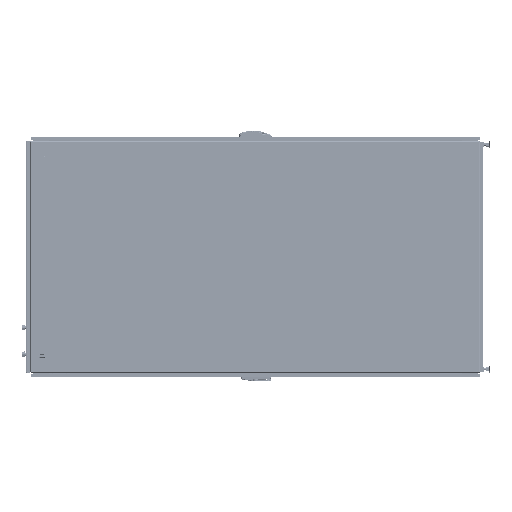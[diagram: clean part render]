
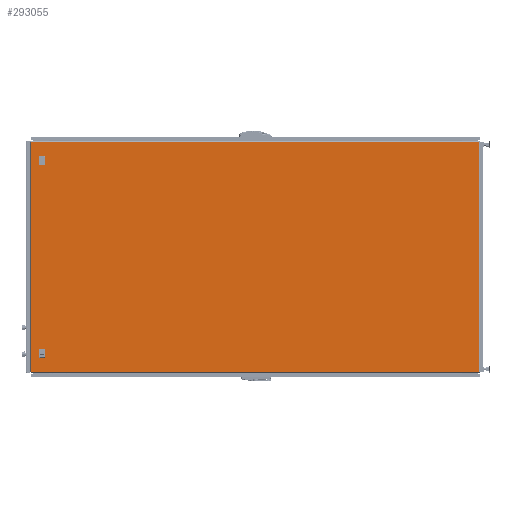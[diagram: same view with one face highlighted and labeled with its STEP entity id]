
A CAD part, left-side view. The second image highlights one B-rep face of the part: STEP entity #293055.
In plain terms, the highlighted planar face has unit normal (-1, 0, 0) as drawn and (0, 0, 1) by its records, which use the part's own axes.
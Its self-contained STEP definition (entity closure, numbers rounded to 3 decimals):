
#1648 = VERTEX_POINT ( 'NONE', #334714 ) ;
#3480 = AXIS2_PLACEMENT_3D ( 'NONE', #177337, #261233, #341466 ) ;
#11365 = EDGE_CURVE ( 'NONE', #47377, #502252, #484099, .T. ) ;
#18379 = LINE ( 'NONE', #193290, #331062 ) ;
#21277 = ORIENTED_EDGE ( 'NONE', *, *, #361729, .F. ) ;
#25738 = VERTEX_POINT ( 'NONE', #327132 ) ;
#31982 = CARTESIAN_POINT ( 'NONE',  ( -573.779, 1.524, 0. ) ) ;
#35025 = ORIENTED_EDGE ( 'NONE', *, *, #151878, .F. ) ;
#47377 = VERTEX_POINT ( 'NONE', #301058 ) ;
#67535 = CARTESIAN_POINT ( 'NONE',  ( 460.5, 2193.003, 0. ) ) ;
#72710 = DIRECTION ( 'NONE',  ( 0., 1., 0. ) ) ;
#91790 = DIRECTION ( 'NONE',  ( 1., 0., 0. ) ) ;
#96081 = ORIENTED_EDGE ( 'NONE', *, *, #11365, .T. ) ;
#98924 = VECTOR ( 'NONE', #282753, 1000. ) ;
#104261 = DIRECTION ( 'NONE',  ( -1., 0., 0. ) ) ;
#113741 = CARTESIAN_POINT ( 'NONE',  ( -498.6, 2193.003, 0. ) ) ;
#124454 = CARTESIAN_POINT ( 'NONE',  ( -498.6, 2167.603, 0. ) ) ;
#129493 = EDGE_CURVE ( 'NONE', #314460, #506966, #357838, .T. ) ;
#132019 = VERTEX_POINT ( 'NONE', #503800 ) ;
#133165 = CARTESIAN_POINT ( 'NONE',  ( -460.5, 2167.603, 0. ) ) ;
#148155 = LINE ( 'NONE', #468158, #429061 ) ;
#148241 = FACE_BOUND ( 'NONE', #505497, .T. ) ;
#151878 = EDGE_CURVE ( 'NONE', #132019, #275704, #291256, .T. ) ;
#159605 = EDGE_CURVE ( 'NONE', #275704, #455813, #243333, .T. ) ;
#163315 = EDGE_CURVE ( 'NONE', #225028, #314460, #349330, .T. ) ;
#177337 = CARTESIAN_POINT ( 'NONE',  ( -575.303, 2236.206, 0. ) ) ;
#187046 = CARTESIAN_POINT ( 'NONE',  ( 498.6, 2193.003, 0. ) ) ;
#191792 = CARTESIAN_POINT ( 'NONE',  ( -573.779, 2236.206, 0. ) ) ;
#192061 = EDGE_CURVE ( 'NONE', #455813, #321196, #245886, .T. ) ;
#193290 = CARTESIAN_POINT ( 'NONE',  ( -498.6, 2193.003, 0. ) ) ;
#194335 = CARTESIAN_POINT ( 'NONE',  ( -498.6, 2167.603, 0. ) ) ;
#195226 = VECTOR ( 'NONE', #72710, 1000. ) ;
#195954 = ORIENTED_EDGE ( 'NONE', *, *, #159605, .F. ) ;
#197733 = CARTESIAN_POINT ( 'NONE',  ( 573.779, 0., 0. ) ) ;
#198357 = CARTESIAN_POINT ( 'NONE',  ( 460.5, 2193.003, 0. ) ) ;
#199845 = CARTESIAN_POINT ( 'NONE',  ( 498.6, 2193.003, 0. ) ) ;
#213049 = VECTOR ( 'NONE', #322848, 1000. ) ;
#222610 = EDGE_CURVE ( 'NONE', #321196, #132019, #423118, .T. ) ;
#223087 = DIRECTION ( 'NONE',  ( 0., -1., 0. ) ) ;
#225028 = VERTEX_POINT ( 'NONE', #124454 ) ;
#227220 = LINE ( 'NONE', #31982, #425077 ) ;
#231276 = FACE_OUTER_BOUND ( 'NONE', #466594, .T. ) ;
#231909 = VECTOR ( 'NONE', #223087, 1000. ) ;
#232908 = DIRECTION ( 'NONE',  ( 0., -1., 0. ) ) ;
#236586 = CARTESIAN_POINT ( 'NONE',  ( 498.6, 2193.003, 0. ) ) ;
#237436 = FACE_BOUND ( 'NONE', #520679, .T. ) ;
#243333 = LINE ( 'NONE', #199845, #338971 ) ;
#245886 = LINE ( 'NONE', #236586, #98924 ) ;
#258539 = CARTESIAN_POINT ( 'NONE',  ( 498.6, 2167.603, 0. ) ) ;
#261233 = DIRECTION ( 'NONE',  ( 0., 0., -1. ) ) ;
#270287 = LINE ( 'NONE', #488628, #213049 ) ;
#275704 = VERTEX_POINT ( 'NONE', #258539 ) ;
#282753 = DIRECTION ( 'NONE',  ( -1., 0., 0. ) ) ;
#291256 = LINE ( 'NONE', #478611, #450888 ) ;
#293055 = ADVANCED_FACE ( 'NONE', ( #237436, #148241, #231276 ), #503713, .F. ) ;
#301058 = CARTESIAN_POINT ( 'NONE',  ( -573.779, 2234.682, 0. ) ) ;
#306604 = VECTOR ( 'NONE', #439600, 1000. ) ;
#314460 = VERTEX_POINT ( 'NONE', #133165 ) ;
#318607 = ORIENTED_EDGE ( 'NONE', *, *, #334145, .T. ) ;
#321196 = VERTEX_POINT ( 'NONE', #198357 ) ;
#322848 = DIRECTION ( 'NONE',  ( -1., 0., 0. ) ) ;
#327132 = CARTESIAN_POINT ( 'NONE',  ( 573.779, 2234.682, 0. ) ) ;
#331062 = VECTOR ( 'NONE', #401783, 1000. ) ;
#334145 = EDGE_CURVE ( 'NONE', #502252, #1648, #227220, .T. ) ;
#334714 = CARTESIAN_POINT ( 'NONE',  ( 573.779, 1.524, 0. ) ) ;
#338971 = VECTOR ( 'NONE', #447515, 1000. ) ;
#339591 = ORIENTED_EDGE ( 'NONE', *, *, #129493, .F. ) ;
#341466 = DIRECTION ( 'NONE',  ( -1., 0., 0. ) ) ;
#347565 = EDGE_CURVE ( 'NONE', #506966, #419645, #270287, .T. ) ;
#349330 = LINE ( 'NONE', #194335, #527796 ) ;
#357838 = LINE ( 'NONE', #487687, #306604 ) ;
#361729 = EDGE_CURVE ( 'NONE', #419645, #225028, #18379, .T. ) ;
#363618 = DIRECTION ( 'NONE',  ( 1., 0., 0. ) ) ;
#371268 = CARTESIAN_POINT ( 'NONE',  ( -573.779, 1.524, 0. ) ) ;
#381811 = EDGE_CURVE ( 'NONE', #1648, #25738, #412095, .T. ) ;
#388976 = ORIENTED_EDGE ( 'NONE', *, *, #163315, .F. ) ;
#392253 = DIRECTION ( 'NONE',  ( 1., 0., 0. ) ) ;
#399879 = ORIENTED_EDGE ( 'NONE', *, *, #222610, .F. ) ;
#401783 = DIRECTION ( 'NONE',  ( 0., -1., 0. ) ) ;
#402113 = ORIENTED_EDGE ( 'NONE', *, *, #192061, .F. ) ;
#406599 = ORIENTED_EDGE ( 'NONE', *, *, #381811, .T. ) ;
#412095 = LINE ( 'NONE', #197733, #195226 ) ;
#413944 = VECTOR ( 'NONE', #232908, 1000. ) ;
#419645 = VERTEX_POINT ( 'NONE', #113741 ) ;
#423118 = LINE ( 'NONE', #67535, #231909 ) ;
#424085 = CARTESIAN_POINT ( 'NONE',  ( -460.5, 2193.003, 0. ) ) ;
#425077 = VECTOR ( 'NONE', #363618, 1000. ) ;
#426914 = ORIENTED_EDGE ( 'NONE', *, *, #476091, .T. ) ;
#429061 = VECTOR ( 'NONE', #104261, 1000. ) ;
#439600 = DIRECTION ( 'NONE',  ( 0., 1., 0. ) ) ;
#447515 = DIRECTION ( 'NONE',  ( 0., 1., 0. ) ) ;
#450888 = VECTOR ( 'NONE', #91790, 1000. ) ;
#455813 = VERTEX_POINT ( 'NONE', #187046 ) ;
#466594 = EDGE_LOOP ( 'NONE', ( #426914, #96081, #318607, #406599 ) ) ;
#468158 = CARTESIAN_POINT ( 'NONE',  ( 573.779, 2234.682, 0. ) ) ;
#470614 = ORIENTED_EDGE ( 'NONE', *, *, #347565, .F. ) ;
#476091 = EDGE_CURVE ( 'NONE', #25738, #47377, #148155, .T. ) ;
#478611 = CARTESIAN_POINT ( 'NONE',  ( 498.6, 2167.603, 0. ) ) ;
#484099 = LINE ( 'NONE', #191792, #413944 ) ;
#487687 = CARTESIAN_POINT ( 'NONE',  ( -460.5, 2193.003, 0. ) ) ;
#488628 = CARTESIAN_POINT ( 'NONE',  ( -498.6, 2193.003, 0. ) ) ;
#502252 = VERTEX_POINT ( 'NONE', #371268 ) ;
#503713 = PLANE ( 'NONE',  #3480 ) ;
#503800 = CARTESIAN_POINT ( 'NONE',  ( 460.5, 2167.603, 0. ) ) ;
#505497 = EDGE_LOOP ( 'NONE', ( #388976, #21277, #470614, #339591 ) ) ;
#506966 = VERTEX_POINT ( 'NONE', #424085 ) ;
#520679 = EDGE_LOOP ( 'NONE', ( #399879, #402113, #195954, #35025 ) ) ;
#527796 = VECTOR ( 'NONE', #392253, 1000. ) ;
